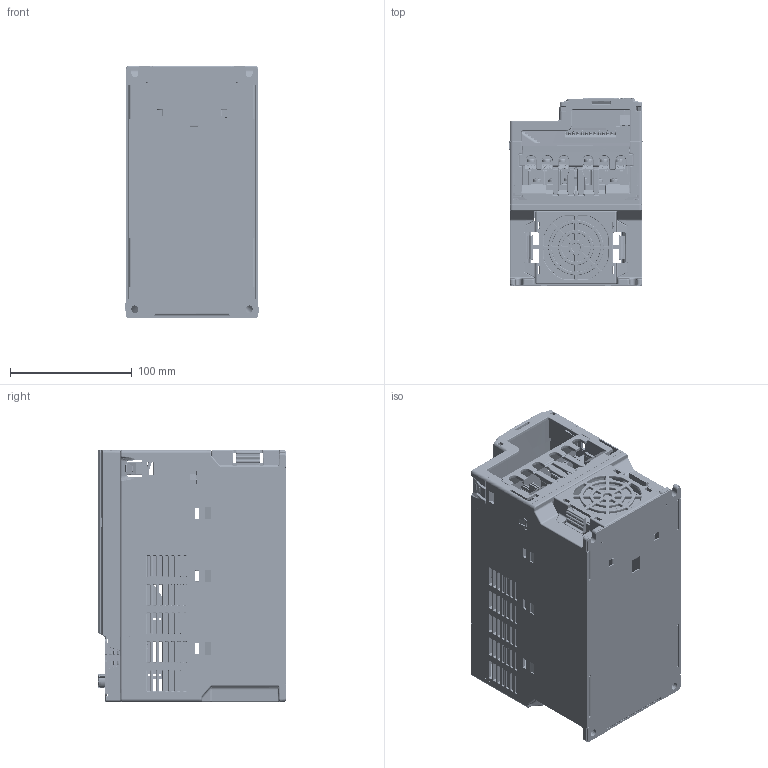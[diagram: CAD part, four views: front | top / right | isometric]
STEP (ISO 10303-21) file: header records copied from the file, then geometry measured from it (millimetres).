
FILE_DESCRIPTION((''),'2;1');
FILE_NAME('ASM0003_ASM_1_ASM','2023-12-28T10:49:49',('EDWARD.LIAO'),(''),'CREO PARAMETRIC BY PTC INC, 2022162','CREO PARAMETRIC BY PTC INC, 2022162','');
FILE_SCHEMA(('AUTOMOTIVE_DESIGN { 1 0 10303 214 1 1 1 1 }'));
Products named in the file (170): VFD-MS300-D1-PD-3D01_1_1; VFD-MS300-D1-PD-3D01_33_1; VFD-MS300-D1-PD-3D01_37_1; VFD-MS300-D1-PD-3D01_40_1; VFD-MS300-D1-PD-3D01_41_1; VFD-MS300-D1-PD-3D01_42_1; VFD-MS300-D1-PD-3D01_43_1; VFD-MS300-D1-PD-3D01_44_1; VFD-MS300-D1-PD-3D01_45_1; VFD-MS300-D1-PD-3D01_49_1; VFD-MS300-D1-PD-3D01_50_1; VFD-MS300-D1-PD-3D01_55_1; VFD-MS300-D1-PD-3D01_56_1; VFD-MS300-D1-PD-3D01_57_1; VFD-MS300-D1-PD-3D01_58_1; VFD-MS300-D1-PD-3D01_61_1; VFD-MS300-D1-PD-3D01_65_1; VFD-MS300-D1-PD-3D01_68_1; VFD-MS300-D1-PD-3D01_71_1; VFD-MS300-D1-PD-3D01_72_1; VFD-MS300-D1-PD-3D01_73_1; VFD-MS300-D1-PD-3D01_74_1; VFD-MS300-D1-PD-3D01_75_1; VFD-MS300-D1-PD-3D01_76_1; VFD-MS300-D1-PD-3D01_77_1; VFD-MS300-D1-PD-3D01_78_1; VFD-MS300-D1-PD-3D01_79_1; VFD-MS300-D1-PD-3D01_80_1; VFD-MS300-D1-PD-3D01_81_1; VFD-MS300-D1-PD-3D01_83_1; VFD-MS300-D1-PD-3D01_84_1; VFD-MS300-D1-PD-3D01_86_1; VFD-MS300-D1-PD-3D01_87_1; VFD-MS300-D1-PD-3D01_89_1; VFD-MS300-D1-PD-3D01_90_1; VFD-MS300-D1-PD-3D01_92_1; VFD-MS300-D1-PD-3D01_93_1; VFD-MS300-D1-PD-3D01_95_1; VFD-MS300-D1-PD-3D01_96_1; VFD-MS300-D1-PD-3D01_98_1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
Assembly tree (169 placements, depth 6):
  ASM0003_ASM_1_ASM
    VFD-MS300-D1-PD-3D01_1_1
    VFD-MS300-D1-PD-3D01_33_1
    VFD-MS300-D1-PD-3D01_37_1
    VFD-MS300-D1-PD-3D01_40_1
    VFD-MS300-D1-PD-3D01_41_1
    VFD-MS300-D1-PD-3D01_42_1
    VFD-MS300-D1-PD-3D01_43_1
    VFD-MS300-D1-PD-3D01_44_1
    VFD-MS300-D1-PD-3D01_45_1
    VFD-MS300-D1-PD-3D01_49_1
    VFD-MS300-D1-PD-3D01_50_1
    VFD-MS300-D1-PD-3D01_55_1
    VFD-MS300-D1-PD-3D01_56_1
    VFD-MS300-D1-PD-3D01_57_1
    VFD-MS300-D1-PD-3D01_58_1
    VFD-MS300-D1-PD-3D01_61_1
    VFD-MS300-D1-PD-3D01_65_1
    VFD-MS300-D1-PD-3D01_68_1
    VFD-MS300-D1-PD-3D01_71_1
    VFD-MS300-D1-PD-3D01_72_1
    VFD-MS300-D1-PD-3D01_73_1
    VFD-MS300-D1-PD-3D01_74_1
    VFD-MS300-D1-PD-3D01_75_1
    VFD-MS300-D1-PD-3D01_76_1
    VFD-MS300-D1-PD-3D01_77_1
    VFD-MS300-D1-PD-3D01_78_1
    VFD-MS300-D1-PD-3D01_79_1
    VFD-MS300-D1-PD-3D01_80_1
    VFD-MS300-D1-PD-3D01_81_1
    VFD-MS300-D1-PD-3D01_83_1
    VFD-MS300-D1-PD-3D01_84_1
    VFD-MS300-D1-PD-3D01_86_1
    VFD-MS300-D1-PD-3D01_87_1
    VFD-MS300-D1-PD-3D01_89_1
    VFD-MS300-D1-PD-3D01_90_1
    VFD-MS300-D1-PD-3D01_92_1
    VFD-MS300-D1-PD-3D01_93_1
    VFD-MS300-D1-PD-3D01_95_1
    VFD-MS300-D1-PD-3D01_96_1
    VFD-MS300-D1-PD-3D01_98_1
    VFD-MS300-D1-PD-3D01_99_1
    VFD-MS300-D1-PD-3D01_101_1
    VFD-MS300-D1-PD-3D01_102_1
    VFD-MS300-D1-PD-3D01_103_1
    VFD-MS300-D1-PD-3D01_105_1
    VFD-MS300-D1-PD-3D01_106_1
    VFD-MS300-D1-PD-3D01_107_1
    VFD-MS300-D1-PD-3D01_109_1
    VFD-MS300-D1-PD-3D01_110_1
    VFD-MS300-D1-PD-3D01_111_1
    VFD-MS300-D1-PD-3D01_113_1
    VFD-MS300-D1-PD-3D01_114_1
    VFD-MS300-D1-PD-3D01_115_1
    VFD-MS300-D1-PD-3D01_117_1
    VFD-MS300-D1-PD-3D01_118_1
    VFD-MS300-D1-PD-3D01_119_1
    VFD-MS300-D1-PD-3D01_121_1
    ASM0001_ASM
      CAD0000911465_ASM_1_1_2_ASM_1_1_ASM
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Bounding box: 109.6 x 154.1 x 207 mm (x, y, z)
Volume: 437999.3 mm3; surface area: 451759.7 mm2
Topology: 164 solids, 167 shells, 18557 faces, 50906 edges, 32640 vertices
Faces by surface type: plane 11283, cylinder 4080, cone 1286, torus 782, extrusion 586, bspline 425, sphere 101, revolution 14
Entity records: 780853 total; most frequent: CARTESIAN_POINT 154796, ORIENTED_EDGE 101454, DIRECTION 96459, EDGE_CURVE 50738, PRESENTATION_STYLE_ASSIGNMENT 38984, STYLED_ITEM 38849, CURVE_STYLE 38429, VECTOR 36217
